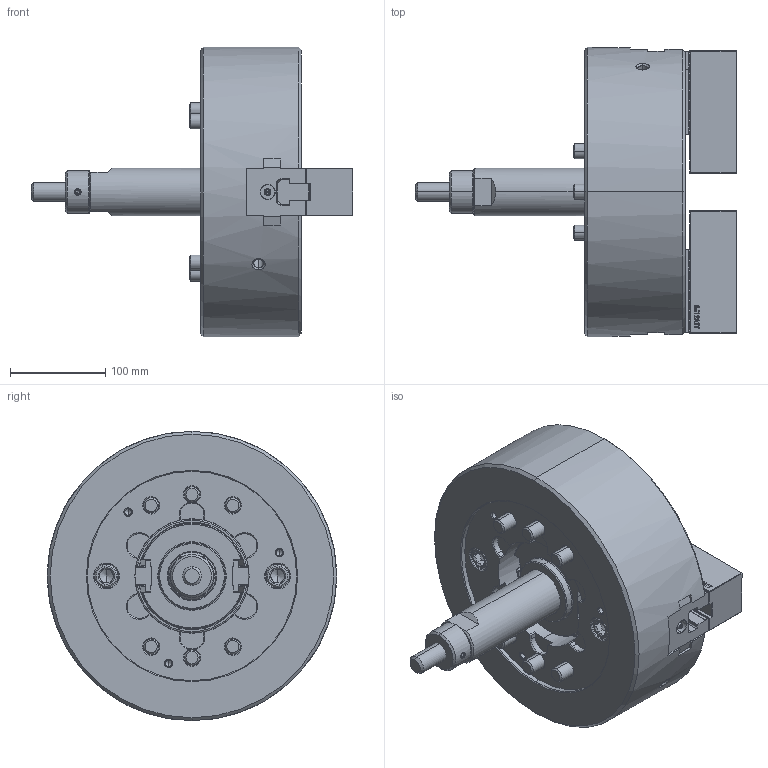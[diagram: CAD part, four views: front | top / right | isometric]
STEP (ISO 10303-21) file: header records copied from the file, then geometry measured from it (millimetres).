
FILE_DESCRIPTION (( 'STEP AP214' ), '1' );
FILE_NAME ('DT1_NLT12_OUTSIDE_VIEW_HCL.STEP', '2026-03-23T07:21:04', ( '' ), ( '' ), 'SwSTEP 2.0', 'SolidWorks 2022', '' );
FILE_SCHEMA (( 'AUTOMOTIVE_DESIGN' ));
Length unit declared in the file: millimetre
Products named in the file (11): DT1_NLT12_COVER^DT1_NLT12; DT1_NLT12_BASE^DT1_NLT12; DT1_NLT12_DRAWSCREW^DT1_NLT12; DT1_NLT12_TNUT^DT1_NLT12; DT1_NLT12_M14x45^DT1_NLT12; DT1_NLT12_DN^DT1_NLT12; DT1_NLT12_M5x12^DT1_NLT12; DT1_NLT12_M16x100^DT1_NLT12; DT1_NLT12_OUTSIDE_VIEW_HCL; Copy of 61P335750^DT1_NLT12; DT1_NLT12_SOFTJAW^DT1_NLT12
Assembly tree (23 placements, depth 2):
  DT1_NLT12_OUTSIDE_VIEW_HCL
    DT1_NLT12_SOFTJAW^DT1_NLT12  x2
    DT1_NLT12_TNUT^DT1_NLT12  x2
    DT1_NLT12_COVER^DT1_NLT12
    DT1_NLT12_DRAWSCREW^DT1_NLT12
    Copy of 61P335750^DT1_NLT12
    DT1_NLT12_DN^DT1_NLT12
    DT1_NLT12_BASE^DT1_NLT12
    DT1_NLT12_M16x100^DT1_NLT12  x6
    DT1_NLT12_M14x45^DT1_NLT12  x4
    DT1_NLT12_M5x12^DT1_NLT12  x4
Bounding box: 338 x 304 x 304 mm (x, y, z)
Volume: 7890440.5 mm3; surface area: 621167.7 mm2
Topology: 23 solids, 23 shells, 4511 faces, 12844 edges, 8403 vertices
Faces by surface type: plane 2696, cylinder 1222, cone 385, bspline 157, torus 47, sphere 4
Entity records: 111319 total; most frequent: CARTESIAN_POINT 30766, ORIENTED_EDGE 18380, DIRECTION 14434, EDGE_CURVE 9190, VECTOR 6508, LINE 6508, VERTEX_POINT 6030, AXIS2_PLACEMENT_3D 3963
